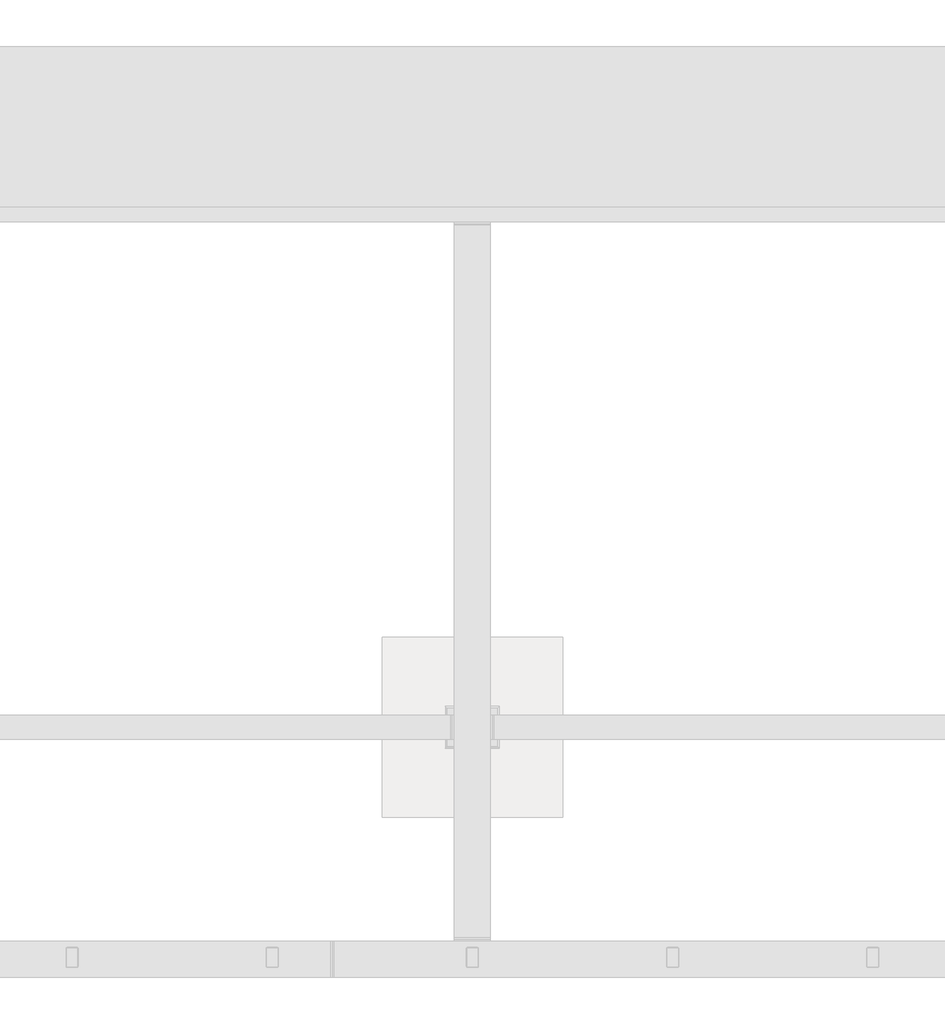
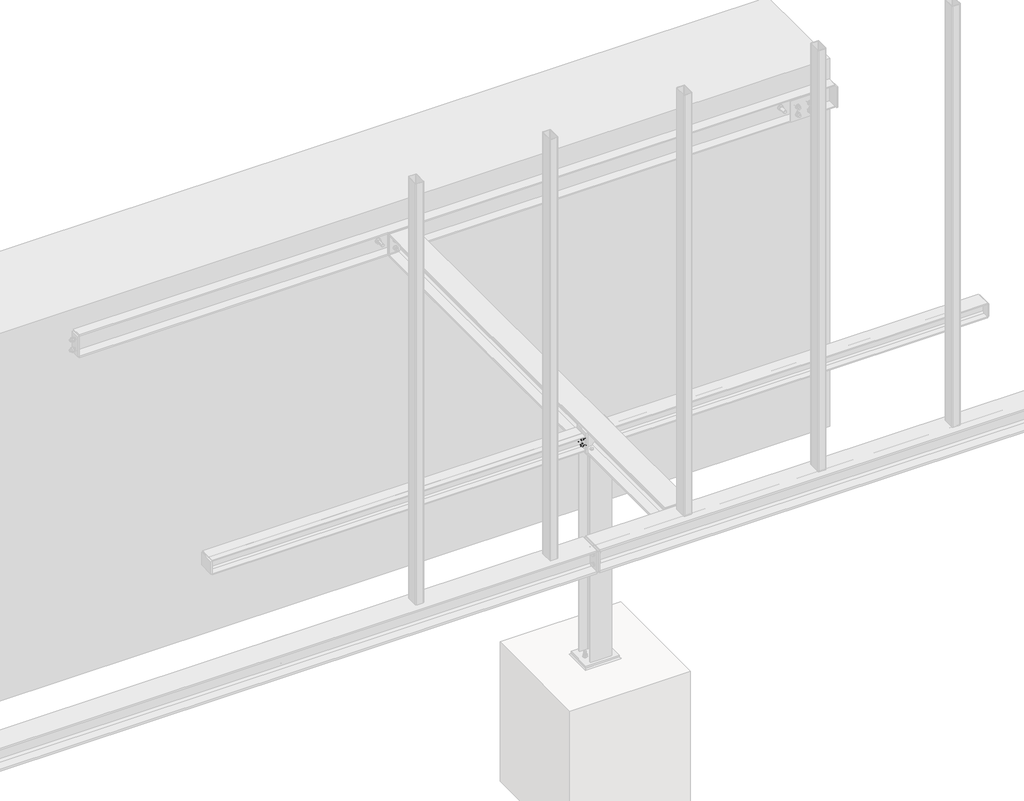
# One storey, part 23 of 31: 1 assembly.
"""IFC4 building model written with IfcOpenShell, lengths in millimetres."""

from ifc_helpers import new_model, si_unit, point, frame, frame_2d, origin, place, context, project, spatial, polyline, circle_curve, trimmed, segment, composite_curve, outline, extrude, element, save

model = new_model("IFC4")

# Units and contexts
model_context = context("Model", 3, world=origin())
ifc_project = project(units=[si_unit("LENGTHUNIT", "METRE", prefix="MILLI")], contexts=[model_context])

# Site, building, storey
site = spatial("IfcSite", under=ifc_project)
building = spatial("IfcBuilding", under=site)
storey = spatial("IfcBuildingStorey", under=building, Name="Základy", Elevation=-1200.0)

# Assembly
placement = place(None, origin())
element("IfcElementAssembly", 1, at=placement, inside=storey, context=model_context, shape_type="SweptSolid", body=[
    extrude(outline(composite_curve([segment(polyline([(-340.0, 9140.0), (-326.0, 9140.0), (-326.0, 9069.25)]), True, "CONTINUOUS"), segment(trimmed(circle_curve(frame_2d((-311.0, 9069.25)), 15.0), [point((-326.0, 9069.25))], [point((-311.0, 9054.25))], True, "CARTESIAN"), True, "CONTINUOUS"), segment(polyline([(-311.0, 9054.25), (-189.0, 9054.25)]), True, "CONTINUOUS"), segment(trimmed(circle_curve(frame_2d((-189.0, 9069.25)), 15.0), [point((-189.0, 9054.25))], [point((-174.0, 9069.25))], True, "CARTESIAN"), True, "CONTINUOUS"), segment(polyline([(-174.0, 9069.25), (-174.0, 9140.0), (-160.0, 9140.0), (-160.0, 8960.0), (-174.0, 8960.0), (-174.0, 9030.75)]), True, "CONTINUOUS"), segment(trimmed(circle_curve(frame_2d((-189.0, 9030.75)), 15.0), [point((-174.0, 9030.75))], [point((-189.0, 9045.75))], True, "CARTESIAN"), True, "CONTINUOUS"), segment(polyline([(-189.0, 9045.75), (-311.0, 9045.75)]), True, "CONTINUOUS"), segment(trimmed(circle_curve(frame_2d((-311.0, 9030.75)), 15.0), [point((-311.0, 9045.75))], [point((-326.0, 9030.75))], True, "CARTESIAN"), True, "CONTINUOUS"), segment(polyline([(-326.0, 9030.75), (-326.0, 8960.0), (-340.0, 8960.0), (-340.0, 9140.0)]), True, "CONTINUOUS")], self_intersect=False)), frame((0.0, 210.0, 0.0), z_axis=(0.0, 1.0, 0.0), x_axis=(0.0, 0.0, 1.0)), (0.0, 0.0, 1.0), 3557.0),
    extrude(outline(polyline([(8960.0, 3775.0), (9140.0, 3775.0), (9140.0, 3767.0), (8960.0, 3767.0), (8960.0, 3775.0)])), frame((0.0, 0.0, -316.0), z_axis=(0.0, 0.0, 1.0), x_axis=(1.0, 0.0, 0.0)), (0.0, 0.0, 1.0), 132.0),
    extrude(outline(polyline([(8950.0, 1200.0), (8950.0, 1320.0), (8960.0, 1320.0), (8960.0, 1200.0), (8950.0, 1200.0)])), frame((0.0, 0.0, -332.0), z_axis=(0.0, 0.0, 1.0), x_axis=(1.0, 0.0, 0.0)), (0.0, 0.0, 1.0), 164.0),
    extrude(outline(polyline([(9140.0, 1200.0), (9140.0, 1320.0), (9150.0, 1320.0), (9150.0, 1200.0), (9140.0, 1200.0)])), frame((0.0, 0.0, -332.0), z_axis=(0.0, 0.0, 1.0), x_axis=(1.0, 0.0, 0.0)), (0.0, 0.0, 1.0), 164.0),
    extrude(outline(composite_curve([segment(polyline([(-174.0, 9140.0), (-174.0, 9079.5)]), True, "CONTINUOUS"), segment(trimmed(circle_curve(frame_2d((-174.0, 9054.5)), 25.0), [point((-174.0, 9079.5))], [point((-199.0, 9054.5))], True, "CARTESIAN"), True, "CONTINUOUS"), segment(polyline([(-199.0, 9054.5), (-301.0, 9054.5)]), True, "CONTINUOUS"), segment(trimmed(circle_curve(frame_2d((-326.0, 9054.5)), 25.0), [point((-301.0, 9054.5))], [point((-326.0, 9079.5))], True, "CARTESIAN"), True, "CONTINUOUS"), segment(polyline([(-326.0, 9079.5), (-326.0, 9140.0), (-174.0, 9140.0)]), True, "CONTINUOUS")], self_intersect=False)), frame((0.0, 1256.0, 0.0), z_axis=(0.0, 1.0, 0.0), x_axis=(0.0, 0.0, 1.0)), (0.0, 0.0, 1.0), 8.0),
    extrude(outline(composite_curve([segment(polyline([(-174.0, 8960.0), (-326.0, 8960.0), (-326.0, 9020.5)]), True, "CONTINUOUS"), segment(trimmed(circle_curve(frame_2d((-326.0, 9045.5)), 25.0), [point((-326.0, 9020.5))], [point((-301.0, 9045.5))], True, "CARTESIAN"), True, "CONTINUOUS"), segment(polyline([(-301.0, 9045.5), (-199.0, 9045.5)]), True, "CONTINUOUS"), segment(trimmed(circle_curve(frame_2d((-174.0, 9045.5)), 25.0), [point((-199.0, 9045.5))], [point((-174.0, 9020.5))], True, "CARTESIAN"), True, "CONTINUOUS"), segment(polyline([(-174.0, 9020.5), (-174.0, 8960.0)]), True, "CONTINUOUS")], self_intersect=False)), frame((0.0, 1256.0, 0.0), z_axis=(0.0, 1.0, 0.0), x_axis=(0.0, 0.0, 1.0)), (0.0, 0.0, 1.0), 8.0),
    extrude(outline(polyline([(8960.0, 210.0), (9140.0, 210.0), (9140.0, 200.0), (8960.0, 200.0), (8960.0, 210.0)])), frame((0.0, 0.0, -332.0), z_axis=(0.0, 0.0, 1.0), x_axis=(1.0, 0.0, 0.0)), (0.0, 0.0, 1.0), 164.0),
    extrude(outline(composite_curve([segment(trimmed(circle_curve(frame_2d((1230.0, -225.0)), 6.5), [point((1230.0, -231.5))], [point((1230.0, -218.5))], False, "CARTESIAN"), True, "CONTINUOUS"), segment(trimmed(circle_curve(frame_2d((1230.0, -225.0)), 6.5), [point((1230.0, -218.5))], [point((1230.0, -231.5))], False, "CARTESIAN"), True, "CONTINUOUS")], self_intersect=False)), frame((8949.9, 0.0, 0.0), z_axis=(1.0, 0.0, 0.0), x_axis=(0.0, 1.0, 0.0)), (0.0, 0.0, 1.0), 10.0),
    extrude(outline(polyline([(1230.0, -235.3923048), (1221.0, -230.1961524), (1221.0, -219.8038476), (1230.0, -214.6076952), (1239.0, -219.8038476), (1239.0, -230.1961524), (1230.0, -235.3923048)])), frame((8962.5, 0.0, 0.0), z_axis=(1.0, 0.0, 0.0), x_axis=(0.0, 1.0, 0.0)), (0.0, 0.0, 1.0), 7.5),
    extrude(outline(composite_curve([segment(trimmed(circle_curve(frame_2d((1230.0, -225.0)), 6.0), [point((1230.0, -231.0))], [point((1230.0, -219.0))], False, "CARTESIAN"), True, "CONTINUOUS"), segment(trimmed(circle_curve(frame_2d((1230.0, -225.0)), 6.0), [point((1230.0, -219.0))], [point((1230.0, -231.0))], False, "CARTESIAN"), True, "CONTINUOUS")], self_intersect=False)), frame((8922.5, 0.0, 0.0), z_axis=(1.0, 0.0, 0.0), x_axis=(0.0, 1.0, 0.0)), (0.0, 0.0, 1.0), 40.0),
    extrude(outline(composite_curve([segment(trimmed(circle_curve(frame_2d((1230.0, -225.0)), 12.0), [point((1230.0, -237.0))], [point((1230.0, -213.0))], False, "CARTESIAN"), True, "CONTINUOUS"), segment(trimmed(circle_curve(frame_2d((1230.0, -225.0)), 12.0), [point((1230.0, -213.0))], [point((1230.0, -237.0))], False, "CARTESIAN"), True, "CONTINUOUS")], self_intersect=False)), frame((8960.0, 0.0, 0.0), z_axis=(1.0, 0.0, 0.0), x_axis=(0.0, 1.0, 0.0)), (0.0, 0.0, 1.0), 2.5),
    extrude(outline(composite_curve([segment(trimmed(circle_curve(frame_2d((1230.0, -225.0)), 12.0), [point((1230.0, -237.0))], [point((1230.0, -213.0))], False, "CARTESIAN"), True, "CONTINUOUS"), segment(trimmed(circle_curve(frame_2d((1230.0, -225.0)), 12.0), [point((1230.0, -213.0))], [point((1230.0, -237.0))], False, "CARTESIAN"), True, "CONTINUOUS")], self_intersect=False)), frame((8937.5, 0.0, 0.0), z_axis=(1.0, 0.0, 0.0), x_axis=(0.0, 1.0, 0.0)), (0.0, 0.0, 1.0), 2.5),
    extrude(outline(polyline([(1230.0, -235.9696551), (1220.5, -230.4848276), (1220.5, -219.5151724), (1230.0, -214.0303449), (1239.5, -219.5151724), (1239.5, -230.4848276), (1230.0, -235.9696551)])), frame((8927.5, 0.0, 0.0), z_axis=(1.0, 0.0, 0.0), x_axis=(0.0, 1.0, 0.0)), (0.0, 0.0, 1.0), 10.0),
    extrude(outline(composite_curve([segment(trimmed(circle_curve(frame_2d((1230.0, -225.0)), 6.5), [point((1230.0, -231.5))], [point((1230.0, -218.5))], False, "CARTESIAN"), True, "CONTINUOUS"), segment(trimmed(circle_curve(frame_2d((1230.0, -225.0)), 6.5), [point((1230.0, -218.5))], [point((1230.0, -231.5))], False, "CARTESIAN"), True, "CONTINUOUS")], self_intersect=False)), frame((8940.0, 0.0, 0.0), z_axis=(1.0, 0.0, 0.0), x_axis=(0.0, 1.0, 0.0)), (0.0, 0.0, 1.0), 10.1),
    extrude(outline(composite_curve([segment(trimmed(circle_curve(frame_2d((1230.0, -275.0)), 6.5), [point((1230.0, -281.5))], [point((1230.0, -268.5))], False, "CARTESIAN"), True, "CONTINUOUS"), segment(trimmed(circle_curve(frame_2d((1230.0, -275.0)), 6.5), [point((1230.0, -268.5))], [point((1230.0, -281.5))], False, "CARTESIAN"), True, "CONTINUOUS")], self_intersect=False)), frame((8949.9, 0.0, 0.0), z_axis=(1.0, 0.0, 0.0), x_axis=(0.0, 1.0, 0.0)), (0.0, 0.0, 1.0), 10.0),
    extrude(outline(polyline([(1230.0, -285.3923048), (1221.0, -280.1961524), (1221.0, -269.8038476), (1230.0, -264.6076952), (1239.0, -269.8038476), (1239.0, -280.1961524), (1230.0, -285.3923048)])), frame((8962.5, 0.0, 0.0), z_axis=(1.0, 0.0, 0.0), x_axis=(0.0, 1.0, 0.0)), (0.0, 0.0, 1.0), 7.5),
    extrude(outline(composite_curve([segment(trimmed(circle_curve(frame_2d((1230.0, -275.0)), 6.0), [point((1230.0, -281.0))], [point((1230.0, -269.0))], False, "CARTESIAN"), True, "CONTINUOUS"), segment(trimmed(circle_curve(frame_2d((1230.0, -275.0)), 6.0), [point((1230.0, -269.0))], [point((1230.0, -281.0))], False, "CARTESIAN"), True, "CONTINUOUS")], self_intersect=False)), frame((8922.5, 0.0, 0.0), z_axis=(1.0, 0.0, 0.0), x_axis=(0.0, 1.0, 0.0)), (0.0, 0.0, 1.0), 40.0),
    extrude(outline(composite_curve([segment(trimmed(circle_curve(frame_2d((1230.0, -275.0)), 12.0), [point((1230.0, -287.0))], [point((1230.0, -263.0))], False, "CARTESIAN"), True, "CONTINUOUS"), segment(trimmed(circle_curve(frame_2d((1230.0, -275.0)), 12.0), [point((1230.0, -263.0))], [point((1230.0, -287.0))], False, "CARTESIAN"), True, "CONTINUOUS")], self_intersect=False)), frame((8960.0, 0.0, 0.0), z_axis=(1.0, 0.0, 0.0), x_axis=(0.0, 1.0, 0.0)), (0.0, 0.0, 1.0), 2.5),
    extrude(outline(composite_curve([segment(trimmed(circle_curve(frame_2d((1230.0, -275.0)), 12.0), [point((1230.0, -287.0))], [point((1230.0, -263.0))], False, "CARTESIAN"), True, "CONTINUOUS"), segment(trimmed(circle_curve(frame_2d((1230.0, -275.0)), 12.0), [point((1230.0, -263.0))], [point((1230.0, -287.0))], False, "CARTESIAN"), True, "CONTINUOUS")], self_intersect=False)), frame((8937.5, 0.0, 0.0), z_axis=(1.0, 0.0, 0.0), x_axis=(0.0, 1.0, 0.0)), (0.0, 0.0, 1.0), 2.5),
    extrude(outline(polyline([(1230.0, -285.9696551), (1220.5, -280.4848276), (1220.5, -269.5151724), (1230.0, -264.0303449), (1239.5, -269.5151724), (1239.5, -280.4848276), (1230.0, -285.9696551)])), frame((8927.5, 0.0, 0.0), z_axis=(1.0, 0.0, 0.0), x_axis=(0.0, 1.0, 0.0)), (0.0, 0.0, 1.0), 10.0),
    extrude(outline(composite_curve([segment(trimmed(circle_curve(frame_2d((1230.0, -275.0)), 6.5), [point((1230.0, -281.5))], [point((1230.0, -268.5))], False, "CARTESIAN"), True, "CONTINUOUS"), segment(trimmed(circle_curve(frame_2d((1230.0, -275.0)), 6.5), [point((1230.0, -268.5))], [point((1230.0, -281.5))], False, "CARTESIAN"), True, "CONTINUOUS")], self_intersect=False)), frame((8940.0, 0.0, 0.0), z_axis=(1.0, 0.0, 0.0), x_axis=(0.0, 1.0, 0.0)), (0.0, 0.0, 1.0), 10.1),
    extrude(outline(composite_curve([segment(trimmed(circle_curve(frame_2d((1290.0, -225.0)), 6.5), [point((1290.0, -231.5))], [point((1290.0, -218.5))], False, "CARTESIAN"), True, "CONTINUOUS"), segment(trimmed(circle_curve(frame_2d((1290.0, -225.0)), 6.5), [point((1290.0, -218.5))], [point((1290.0, -231.5))], False, "CARTESIAN"), True, "CONTINUOUS")], self_intersect=False)), frame((8949.9, 0.0, 0.0), z_axis=(1.0, 0.0, 0.0), x_axis=(0.0, 1.0, 0.0)), (0.0, 0.0, 1.0), 10.0),
    extrude(outline(polyline([(1290.0, -235.3923048), (1281.0, -230.1961524), (1281.0, -219.8038476), (1290.0, -214.6076952), (1299.0, -219.8038476), (1299.0, -230.1961524), (1290.0, -235.3923048)])), frame((8962.5, 0.0, 0.0), z_axis=(1.0, 0.0, 0.0), x_axis=(0.0, 1.0, 0.0)), (0.0, 0.0, 1.0), 7.5),
    extrude(outline(composite_curve([segment(trimmed(circle_curve(frame_2d((1290.0, -225.0)), 6.0), [point((1290.0, -231.0))], [point((1290.0, -219.0))], False, "CARTESIAN"), True, "CONTINUOUS"), segment(trimmed(circle_curve(frame_2d((1290.0, -225.0)), 6.0), [point((1290.0, -219.0))], [point((1290.0, -231.0))], False, "CARTESIAN"), True, "CONTINUOUS")], self_intersect=False)), frame((8922.5, 0.0, 0.0), z_axis=(1.0, 0.0, 0.0), x_axis=(0.0, 1.0, 0.0)), (0.0, 0.0, 1.0), 40.0),
    extrude(outline(composite_curve([segment(trimmed(circle_curve(frame_2d((1290.0, -225.0)), 12.0), [point((1290.0, -237.0))], [point((1290.0, -213.0))], False, "CARTESIAN"), True, "CONTINUOUS"), segment(trimmed(circle_curve(frame_2d((1290.0, -225.0)), 12.0), [point((1290.0, -213.0))], [point((1290.0, -237.0))], False, "CARTESIAN"), True, "CONTINUOUS")], self_intersect=False)), frame((8960.0, 0.0, 0.0), z_axis=(1.0, 0.0, 0.0), x_axis=(0.0, 1.0, 0.0)), (0.0, 0.0, 1.0), 2.5),
    extrude(outline(composite_curve([segment(trimmed(circle_curve(frame_2d((1290.0, -225.0)), 12.0), [point((1290.0, -237.0))], [point((1290.0, -213.0))], False, "CARTESIAN"), True, "CONTINUOUS"), segment(trimmed(circle_curve(frame_2d((1290.0, -225.0)), 12.0), [point((1290.0, -213.0))], [point((1290.0, -237.0))], False, "CARTESIAN"), True, "CONTINUOUS")], self_intersect=False)), frame((8937.5, 0.0, 0.0), z_axis=(1.0, 0.0, 0.0), x_axis=(0.0, 1.0, 0.0)), (0.0, 0.0, 1.0), 2.5),
    extrude(outline(polyline([(1290.0, -235.9696551), (1280.5, -230.4848276), (1280.5, -219.5151724), (1290.0, -214.0303449), (1299.5, -219.5151724), (1299.5, -230.4848276), (1290.0, -235.9696551)])), frame((8927.5, 0.0, 0.0), z_axis=(1.0, 0.0, 0.0), x_axis=(0.0, 1.0, 0.0)), (0.0, 0.0, 1.0), 10.0),
    extrude(outline(composite_curve([segment(trimmed(circle_curve(frame_2d((1290.0, -225.0)), 6.5), [point((1290.0, -231.5))], [point((1290.0, -218.5))], False, "CARTESIAN"), True, "CONTINUOUS"), segment(trimmed(circle_curve(frame_2d((1290.0, -225.0)), 6.5), [point((1290.0, -218.5))], [point((1290.0, -231.5))], False, "CARTESIAN"), True, "CONTINUOUS")], self_intersect=False)), frame((8940.0, 0.0, 0.0), z_axis=(1.0, 0.0, 0.0), x_axis=(0.0, 1.0, 0.0)), (0.0, 0.0, 1.0), 10.1),
    extrude(outline(composite_curve([segment(trimmed(circle_curve(frame_2d((1290.0, -275.0)), 6.5), [point((1290.0, -281.5))], [point((1290.0, -268.5))], False, "CARTESIAN"), True, "CONTINUOUS"), segment(trimmed(circle_curve(frame_2d((1290.0, -275.0)), 6.5), [point((1290.0, -268.5))], [point((1290.0, -281.5))], False, "CARTESIAN"), True, "CONTINUOUS")], self_intersect=False)), frame((8949.9, 0.0, 0.0), z_axis=(1.0, 0.0, 0.0), x_axis=(0.0, 1.0, 0.0)), (0.0, 0.0, 1.0), 10.0),
    extrude(outline(polyline([(1290.0, -285.3923048), (1281.0, -280.1961524), (1281.0, -269.8038476), (1290.0, -264.6076952), (1299.0, -269.8038476), (1299.0, -280.1961524), (1290.0, -285.3923048)])), frame((8962.5, 0.0, 0.0), z_axis=(1.0, 0.0, 0.0), x_axis=(0.0, 1.0, 0.0)), (0.0, 0.0, 1.0), 7.5),
    extrude(outline(composite_curve([segment(trimmed(circle_curve(frame_2d((1290.0, -275.0)), 6.0), [point((1290.0, -281.0))], [point((1290.0, -269.0))], False, "CARTESIAN"), True, "CONTINUOUS"), segment(trimmed(circle_curve(frame_2d((1290.0, -275.0)), 6.0), [point((1290.0, -269.0))], [point((1290.0, -281.0))], False, "CARTESIAN"), True, "CONTINUOUS")], self_intersect=False)), frame((8922.5, 0.0, 0.0), z_axis=(1.0, 0.0, 0.0), x_axis=(0.0, 1.0, 0.0)), (0.0, 0.0, 1.0), 40.0),
    extrude(outline(composite_curve([segment(trimmed(circle_curve(frame_2d((1290.0, -275.0)), 12.0), [point((1290.0, -287.0))], [point((1290.0, -263.0))], False, "CARTESIAN"), True, "CONTINUOUS"), segment(trimmed(circle_curve(frame_2d((1290.0, -275.0)), 12.0), [point((1290.0, -263.0))], [point((1290.0, -287.0))], False, "CARTESIAN"), True, "CONTINUOUS")], self_intersect=False)), frame((8960.0, 0.0, 0.0), z_axis=(1.0, 0.0, 0.0), x_axis=(0.0, 1.0, 0.0)), (0.0, 0.0, 1.0), 2.5),
    extrude(outline(composite_curve([segment(trimmed(circle_curve(frame_2d((1290.0, -275.0)), 12.0), [point((1290.0, -287.0))], [point((1290.0, -263.0))], False, "CARTESIAN"), True, "CONTINUOUS"), segment(trimmed(circle_curve(frame_2d((1290.0, -275.0)), 12.0), [point((1290.0, -263.0))], [point((1290.0, -287.0))], False, "CARTESIAN"), True, "CONTINUOUS")], self_intersect=False)), frame((8937.5, 0.0, 0.0), z_axis=(1.0, 0.0, 0.0), x_axis=(0.0, 1.0, 0.0)), (0.0, 0.0, 1.0), 2.5),
    extrude(outline(polyline([(1290.0, -285.9696551), (1280.5, -280.4848276), (1280.5, -269.5151724), (1290.0, -264.0303449), (1299.5, -269.5151724), (1299.5, -280.4848276), (1290.0, -285.9696551)])), frame((8927.5, 0.0, 0.0), z_axis=(1.0, 0.0, 0.0), x_axis=(0.0, 1.0, 0.0)), (0.0, 0.0, 1.0), 10.0),
    extrude(outline(composite_curve([segment(trimmed(circle_curve(frame_2d((1290.0, -275.0)), 6.5), [point((1290.0, -281.5))], [point((1290.0, -268.5))], False, "CARTESIAN"), True, "CONTINUOUS"), segment(trimmed(circle_curve(frame_2d((1290.0, -275.0)), 6.5), [point((1290.0, -268.5))], [point((1290.0, -281.5))], False, "CARTESIAN"), True, "CONTINUOUS")], self_intersect=False)), frame((8940.0, 0.0, 0.0), z_axis=(1.0, 0.0, 0.0), x_axis=(0.0, 1.0, 0.0)), (0.0, 0.0, 1.0), 10.1),
    extrude(outline(composite_curve([segment(trimmed(circle_curve(frame_2d((1230.0, -225.0)), 6.5), [point((1230.0, -231.5))], [point((1230.0, -218.5))], False, "CARTESIAN"), True, "CONTINUOUS"), segment(trimmed(circle_curve(frame_2d((1230.0, -225.0)), 6.5), [point((1230.0, -218.5))], [point((1230.0, -231.5))], False, "CARTESIAN"), True, "CONTINUOUS")], self_intersect=False)), frame((9140.1, 0.0, 0.0), z_axis=(1.0, 0.0, 0.0), x_axis=(0.0, 1.0, 0.0)), (0.0, 0.0, 1.0), 10.0),
    extrude(outline(polyline([(1230.0, -235.3923048), (1221.0, -230.1961524), (1221.0, -219.8038476), (1230.0, -214.6076952), (1239.0, -219.8038476), (1239.0, -230.1961524), (1230.0, -235.3923048)])), frame((9130.0, 0.0, 0.0), z_axis=(1.0, 0.0, 0.0), x_axis=(0.0, 1.0, 0.0)), (0.0, 0.0, 1.0), 7.5),
    extrude(outline(composite_curve([segment(trimmed(circle_curve(frame_2d((1230.0, -225.0)), 6.0), [point((1230.0, -231.0))], [point((1230.0, -219.0))], False, "CARTESIAN"), True, "CONTINUOUS"), segment(trimmed(circle_curve(frame_2d((1230.0, -225.0)), 6.0), [point((1230.0, -219.0))], [point((1230.0, -231.0))], False, "CARTESIAN"), True, "CONTINUOUS")], self_intersect=False)), frame((9137.5, 0.0, 0.0), z_axis=(1.0, 0.0, 0.0), x_axis=(0.0, 1.0, 0.0)), (0.0, 0.0, 1.0), 40.0),
    extrude(outline(composite_curve([segment(trimmed(circle_curve(frame_2d((1230.0, -225.0)), 12.0), [point((1230.0, -237.0))], [point((1230.0, -213.0))], False, "CARTESIAN"), True, "CONTINUOUS"), segment(trimmed(circle_curve(frame_2d((1230.0, -225.0)), 12.0), [point((1230.0, -213.0))], [point((1230.0, -237.0))], False, "CARTESIAN"), True, "CONTINUOUS")], self_intersect=False)), frame((9137.5, 0.0, 0.0), z_axis=(1.0, 0.0, 0.0), x_axis=(0.0, 1.0, 0.0)), (0.0, 0.0, 1.0), 2.5),
    extrude(outline(composite_curve([segment(trimmed(circle_curve(frame_2d((1230.0, -225.0)), 12.0), [point((1230.0, -237.0))], [point((1230.0, -213.0))], False, "CARTESIAN"), True, "CONTINUOUS"), segment(trimmed(circle_curve(frame_2d((1230.0, -225.0)), 12.0), [point((1230.0, -213.0))], [point((1230.0, -237.0))], False, "CARTESIAN"), True, "CONTINUOUS")], self_intersect=False)), frame((9160.0, 0.0, 0.0), z_axis=(1.0, 0.0, 0.0), x_axis=(0.0, 1.0, 0.0)), (0.0, 0.0, 1.0), 2.5),
    extrude(outline(polyline([(1230.0, -235.9696551), (1220.5, -230.4848276), (1220.5, -219.5151724), (1230.0, -214.0303449), (1239.5, -219.5151724), (1239.5, -230.4848276), (1230.0, -235.9696551)])), frame((9162.5, 0.0, 0.0), z_axis=(1.0, 0.0, 0.0), x_axis=(0.0, 1.0, 0.0)), (0.0, 0.0, 1.0), 10.0),
    extrude(outline(composite_curve([segment(trimmed(circle_curve(frame_2d((1230.0, -225.0)), 6.5), [point((1230.0, -231.5))], [point((1230.0, -218.5))], False, "CARTESIAN"), True, "CONTINUOUS"), segment(trimmed(circle_curve(frame_2d((1230.0, -225.0)), 6.5), [point((1230.0, -218.5))], [point((1230.0, -231.5))], False, "CARTESIAN"), True, "CONTINUOUS")], self_intersect=False)), frame((9149.9, 0.0, 0.0), z_axis=(1.0, 0.0, 0.0), x_axis=(0.0, 1.0, 0.0)), (0.0, 0.0, 1.0), 10.1),
    extrude(outline(composite_curve([segment(trimmed(circle_curve(frame_2d((1230.0, -275.0)), 6.5), [point((1230.0, -281.5))], [point((1230.0, -268.5))], False, "CARTESIAN"), True, "CONTINUOUS"), segment(trimmed(circle_curve(frame_2d((1230.0, -275.0)), 6.5), [point((1230.0, -268.5))], [point((1230.0, -281.5))], False, "CARTESIAN"), True, "CONTINUOUS")], self_intersect=False)), frame((9140.1, 0.0, 0.0), z_axis=(1.0, 0.0, 0.0), x_axis=(0.0, 1.0, 0.0)), (0.0, 0.0, 1.0), 10.0),
    extrude(outline(polyline([(1230.0, -285.3923048), (1221.0, -280.1961524), (1221.0, -269.8038476), (1230.0, -264.6076952), (1239.0, -269.8038476), (1239.0, -280.1961524), (1230.0, -285.3923048)])), frame((9130.0, 0.0, 0.0), z_axis=(1.0, 0.0, 0.0), x_axis=(0.0, 1.0, 0.0)), (0.0, 0.0, 1.0), 7.5),
    extrude(outline(composite_curve([segment(trimmed(circle_curve(frame_2d((1230.0, -275.0)), 6.0), [point((1230.0, -281.0))], [point((1230.0, -269.0))], False, "CARTESIAN"), True, "CONTINUOUS"), segment(trimmed(circle_curve(frame_2d((1230.0, -275.0)), 6.0), [point((1230.0, -269.0))], [point((1230.0, -281.0))], False, "CARTESIAN"), True, "CONTINUOUS")], self_intersect=False)), frame((9137.5, 0.0, 0.0), z_axis=(1.0, 0.0, 0.0), x_axis=(0.0, 1.0, 0.0)), (0.0, 0.0, 1.0), 40.0),
    extrude(outline(composite_curve([segment(trimmed(circle_curve(frame_2d((1230.0, -275.0)), 12.0), [point((1230.0, -287.0))], [point((1230.0, -263.0))], False, "CARTESIAN"), True, "CONTINUOUS"), segment(trimmed(circle_curve(frame_2d((1230.0, -275.0)), 12.0), [point((1230.0, -263.0))], [point((1230.0, -287.0))], False, "CARTESIAN"), True, "CONTINUOUS")], self_intersect=False)), frame((9137.5, 0.0, 0.0), z_axis=(1.0, 0.0, 0.0), x_axis=(0.0, 1.0, 0.0)), (0.0, 0.0, 1.0), 2.5),
    extrude(outline(composite_curve([segment(trimmed(circle_curve(frame_2d((1230.0, -275.0)), 12.0), [point((1230.0, -287.0))], [point((1230.0, -263.0))], False, "CARTESIAN"), True, "CONTINUOUS"), segment(trimmed(circle_curve(frame_2d((1230.0, -275.0)), 12.0), [point((1230.0, -263.0))], [point((1230.0, -287.0))], False, "CARTESIAN"), True, "CONTINUOUS")], self_intersect=False)), frame((9160.0, 0.0, 0.0), z_axis=(1.0, 0.0, 0.0), x_axis=(0.0, 1.0, 0.0)), (0.0, 0.0, 1.0), 2.5),
    extrude(outline(polyline([(1230.0, -285.9696551), (1220.5, -280.4848276), (1220.5, -269.5151724), (1230.0, -264.0303449), (1239.5, -269.5151724), (1239.5, -280.4848276), (1230.0, -285.9696551)])), frame((9162.5, 0.0, 0.0), z_axis=(1.0, 0.0, 0.0), x_axis=(0.0, 1.0, 0.0)), (0.0, 0.0, 1.0), 10.0),
    extrude(outline(composite_curve([segment(trimmed(circle_curve(frame_2d((1230.0, -275.0)), 6.5), [point((1230.0, -281.5))], [point((1230.0, -268.5))], False, "CARTESIAN"), True, "CONTINUOUS"), segment(trimmed(circle_curve(frame_2d((1230.0, -275.0)), 6.5), [point((1230.0, -268.5))], [point((1230.0, -281.5))], False, "CARTESIAN"), True, "CONTINUOUS")], self_intersect=False)), frame((9149.9, 0.0, 0.0), z_axis=(1.0, 0.0, 0.0), x_axis=(0.0, 1.0, 0.0)), (0.0, 0.0, 1.0), 10.1),
    extrude(outline(composite_curve([segment(trimmed(circle_curve(frame_2d((1290.0, -225.0)), 6.5), [point((1290.0, -231.5))], [point((1290.0, -218.5))], False, "CARTESIAN"), True, "CONTINUOUS"), segment(trimmed(circle_curve(frame_2d((1290.0, -225.0)), 6.5), [point((1290.0, -218.5))], [point((1290.0, -231.5))], False, "CARTESIAN"), True, "CONTINUOUS")], self_intersect=False)), frame((9140.1, 0.0, 0.0), z_axis=(1.0, 0.0, 0.0), x_axis=(0.0, 1.0, 0.0)), (0.0, 0.0, 1.0), 10.0),
    extrude(outline(polyline([(1290.0, -235.3923048), (1281.0, -230.1961524), (1281.0, -219.8038476), (1290.0, -214.6076952), (1299.0, -219.8038476), (1299.0, -230.1961524), (1290.0, -235.3923048)])), frame((9130.0, 0.0, 0.0), z_axis=(1.0, 0.0, 0.0), x_axis=(0.0, 1.0, 0.0)), (0.0, 0.0, 1.0), 7.5),
    extrude(outline(composite_curve([segment(trimmed(circle_curve(frame_2d((1290.0, -225.0)), 6.0), [point((1290.0, -231.0))], [point((1290.0, -219.0))], False, "CARTESIAN"), True, "CONTINUOUS"), segment(trimmed(circle_curve(frame_2d((1290.0, -225.0)), 6.0), [point((1290.0, -219.0))], [point((1290.0, -231.0))], False, "CARTESIAN"), True, "CONTINUOUS")], self_intersect=False)), frame((9137.5, 0.0, 0.0), z_axis=(1.0, 0.0, 0.0), x_axis=(0.0, 1.0, 0.0)), (0.0, 0.0, 1.0), 40.0),
    extrude(outline(composite_curve([segment(trimmed(circle_curve(frame_2d((1290.0, -225.0)), 12.0), [point((1290.0, -237.0))], [point((1290.0, -213.0))], False, "CARTESIAN"), True, "CONTINUOUS"), segment(trimmed(circle_curve(frame_2d((1290.0, -225.0)), 12.0), [point((1290.0, -213.0))], [point((1290.0, -237.0))], False, "CARTESIAN"), True, "CONTINUOUS")], self_intersect=False)), frame((9137.5, 0.0, 0.0), z_axis=(1.0, 0.0, 0.0), x_axis=(0.0, 1.0, 0.0)), (0.0, 0.0, 1.0), 2.5),
    extrude(outline(composite_curve([segment(trimmed(circle_curve(frame_2d((1290.0, -225.0)), 12.0), [point((1290.0, -237.0))], [point((1290.0, -213.0))], False, "CARTESIAN"), True, "CONTINUOUS"), segment(trimmed(circle_curve(frame_2d((1290.0, -225.0)), 12.0), [point((1290.0, -213.0))], [point((1290.0, -237.0))], False, "CARTESIAN"), True, "CONTINUOUS")], self_intersect=False)), frame((9160.0, 0.0, 0.0), z_axis=(1.0, 0.0, 0.0), x_axis=(0.0, 1.0, 0.0)), (0.0, 0.0, 1.0), 2.5),
    extrude(outline(polyline([(1290.0, -235.9696551), (1280.5, -230.4848276), (1280.5, -219.5151724), (1290.0, -214.0303449), (1299.5, -219.5151724), (1299.5, -230.4848276), (1290.0, -235.9696551)])), frame((9162.5, 0.0, 0.0), z_axis=(1.0, 0.0, 0.0), x_axis=(0.0, 1.0, 0.0)), (0.0, 0.0, 1.0), 10.0),
    extrude(outline(composite_curve([segment(trimmed(circle_curve(frame_2d((1290.0, -225.0)), 6.5), [point((1290.0, -231.5))], [point((1290.0, -218.5))], False, "CARTESIAN"), True, "CONTINUOUS"), segment(trimmed(circle_curve(frame_2d((1290.0, -225.0)), 6.5), [point((1290.0, -218.5))], [point((1290.0, -231.5))], False, "CARTESIAN"), True, "CONTINUOUS")], self_intersect=False)), frame((9149.9, 0.0, 0.0), z_axis=(1.0, 0.0, 0.0), x_axis=(0.0, 1.0, 0.0)), (0.0, 0.0, 1.0), 10.1),
    extrude(outline(composite_curve([segment(trimmed(circle_curve(frame_2d((1290.0, -275.0)), 6.5), [point((1290.0, -281.5))], [point((1290.0, -268.5))], False, "CARTESIAN"), True, "CONTINUOUS"), segment(trimmed(circle_curve(frame_2d((1290.0, -275.0)), 6.5), [point((1290.0, -268.5))], [point((1290.0, -281.5))], False, "CARTESIAN"), True, "CONTINUOUS")], self_intersect=False)), frame((9140.1, 0.0, 0.0), z_axis=(1.0, 0.0, 0.0), x_axis=(0.0, 1.0, 0.0)), (0.0, 0.0, 1.0), 10.0),
    extrude(outline(polyline([(1290.0, -285.3923048), (1281.0, -280.1961524), (1281.0, -269.8038476), (1290.0, -264.6076952), (1299.0, -269.8038476), (1299.0, -280.1961524), (1290.0, -285.3923048)])), frame((9130.0, 0.0, 0.0), z_axis=(1.0, 0.0, 0.0), x_axis=(0.0, 1.0, 0.0)), (0.0, 0.0, 1.0), 7.5),
    extrude(outline(composite_curve([segment(trimmed(circle_curve(frame_2d((1290.0, -275.0)), 6.0), [point((1290.0, -281.0))], [point((1290.0, -269.0))], False, "CARTESIAN"), True, "CONTINUOUS"), segment(trimmed(circle_curve(frame_2d((1290.0, -275.0)), 6.0), [point((1290.0, -269.0))], [point((1290.0, -281.0))], False, "CARTESIAN"), True, "CONTINUOUS")], self_intersect=False)), frame((9137.5, 0.0, 0.0), z_axis=(1.0, 0.0, 0.0), x_axis=(0.0, 1.0, 0.0)), (0.0, 0.0, 1.0), 40.0),
    extrude(outline(composite_curve([segment(trimmed(circle_curve(frame_2d((1290.0, -275.0)), 12.0), [point((1290.0, -287.0))], [point((1290.0, -263.0))], False, "CARTESIAN"), True, "CONTINUOUS"), segment(trimmed(circle_curve(frame_2d((1290.0, -275.0)), 12.0), [point((1290.0, -263.0))], [point((1290.0, -287.0))], False, "CARTESIAN"), True, "CONTINUOUS")], self_intersect=False)), frame((9137.5, 0.0, 0.0), z_axis=(1.0, 0.0, 0.0), x_axis=(0.0, 1.0, 0.0)), (0.0, 0.0, 1.0), 2.5),
    extrude(outline(composite_curve([segment(trimmed(circle_curve(frame_2d((1290.0, -275.0)), 12.0), [point((1290.0, -287.0))], [point((1290.0, -263.0))], False, "CARTESIAN"), True, "CONTINUOUS"), segment(trimmed(circle_curve(frame_2d((1290.0, -275.0)), 12.0), [point((1290.0, -263.0))], [point((1290.0, -287.0))], False, "CARTESIAN"), True, "CONTINUOUS")], self_intersect=False)), frame((9160.0, 0.0, 0.0), z_axis=(1.0, 0.0, 0.0), x_axis=(0.0, 1.0, 0.0)), (0.0, 0.0, 1.0), 2.5),
    extrude(outline(polyline([(1290.0, -285.9696551), (1280.5, -280.4848276), (1280.5, -269.5151724), (1290.0, -264.0303449), (1299.5, -269.5151724), (1299.5, -280.4848276), (1290.0, -285.9696551)])), frame((9162.5, 0.0, 0.0), z_axis=(1.0, 0.0, 0.0), x_axis=(0.0, 1.0, 0.0)), (0.0, 0.0, 1.0), 10.0),
    extrude(outline(composite_curve([segment(trimmed(circle_curve(frame_2d((1290.0, -275.0)), 6.5), [point((1290.0, -281.5))], [point((1290.0, -268.5))], False, "CARTESIAN"), True, "CONTINUOUS"), segment(trimmed(circle_curve(frame_2d((1290.0, -275.0)), 6.5), [point((1290.0, -268.5))], [point((1290.0, -281.5))], False, "CARTESIAN"), True, "CONTINUOUS")], self_intersect=False)), frame((9149.9, 0.0, 0.0), z_axis=(1.0, 0.0, 0.0), x_axis=(0.0, 1.0, 0.0)), (0.0, 0.0, 1.0), 10.1),
])

save(model, "model.ifc")
